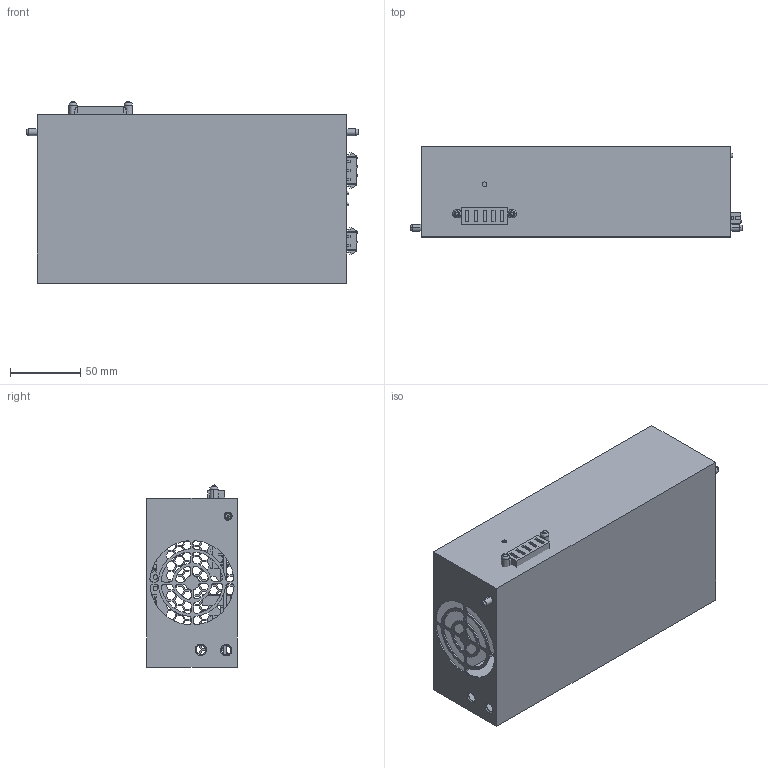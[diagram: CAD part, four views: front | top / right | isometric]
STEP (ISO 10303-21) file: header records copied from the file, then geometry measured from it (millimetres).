
FILE_DESCRIPTION (( 'STEP AP214' ), '1' );
FILE_NAME ('Open Compute Power Supply.STEP', '2011-04-21T23:29:38', ( 'IT' ), ( 'Facebook Inc.' ), 'SwSTEP 2.0', 'SolidWorks 2010', '' );
FILE_SCHEMA (( 'AUTOMOTIVE_DESIGN' ));
Length unit declared in the file: millimetre
Products named in the file (11): Freedom Power Supply; 5581200267_ASM; FACE_PSU_MB_BOARD; 51773-005LFC_MID_PLANE; C-0643226-01-B-3D; C-0643228-01-D-3D; INSULATOR_FOR_5881200279; Pin Bracket HDD; LED power supply green; LED power supply red; Open Compute Power Supply
Assembly tree (11 placements, depth 3):
  Open Compute Power Supply
    5581200267_ASM
      FACE_PSU_MB_BOARD
      51773-005LFC_MID_PLANE
      INSULATOR_FOR_5881200279
      C-0643228-01-D-3D
      C-0643226-01-B-3D
    Pin Bracket HDD  x2
    LED power supply red
    LED power supply green
    Freedom Power Supply
Bounding box: 236 x 64 x 129.58 mm (x, y, z)
Volume: 135766.8 mm3; surface area: 237377.2 mm2
Topology: 10 solids, 10 shells, 1810 faces, 5219 edges, 3460 vertices
Faces by surface type: plane 1551, cylinder 188, bspline 35, cone 32, sphere 4
Entity records: 60914 total; most frequent: CARTESIAN_POINT 12240, ORIENTED_EDGE 10282, DIRECTION 9025, EDGE_CURVE 5141, VECTOR 4689, LINE 4689, VERTEX_POINT 3419, AXIS2_PLACEMENT_3D 2168
